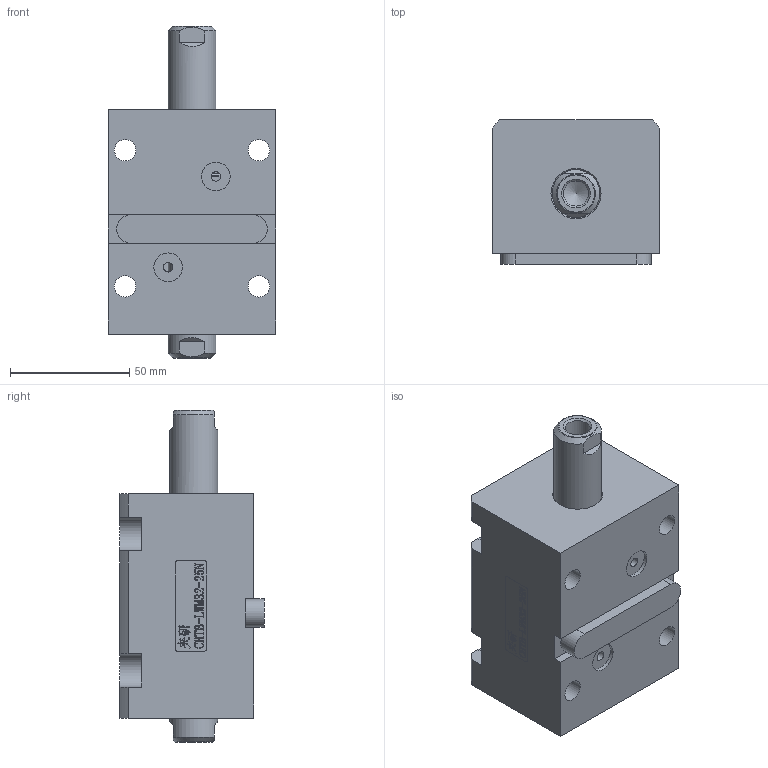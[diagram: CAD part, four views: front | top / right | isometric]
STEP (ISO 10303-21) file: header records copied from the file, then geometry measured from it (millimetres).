
FILE_DESCRIPTION(/* description */ (''),/* implementation_level */ '2;1');
FILE_NAME(/* name */ 'CHTB-LWM32-25N.stp',/* time_stamp */ '2022-04-29T16:31:01+08:00',/* author */ (''),/* organization */ (''),/* preprocessor_version */ 'ST-DEVELOPER v16.7',/* originating_system */ 'SIEMENS PLM Software NX 12.0',/* authorisation */ '');
FILE_SCHEMA (('AUTOMOTIVE_DESIGN { 1 0 10303 214 3 1 1 1 }'));
Length unit declared in the file: millimetre
Products named in the file (1): CHTB-LWM32-25N
Bounding box: 70 x 60.5 x 139 mm (x, y, z)
Volume: 346371.6 mm3; surface area: 67894.2 mm2
Topology: 3 solids, 3 shells, 487 faces, 1363 edges, 919 vertices
Faces by surface type: plane 321, extrusion 88, cylinder 44, torus 14, cone 10, bspline 10
Full cylindrical faces by diameter (mm): 3 x2, 4 x2, 9 x4, 10.5 x2, 12 x2, 20 x4, 24.5 x1, 26 x2, 28 x1, 32 x5, 40 x1
Entity records: 23158 total; most frequent: CARTESIAN_POINT 8802, ORIENTED_EDGE 2602, DIRECTION 2002, EDGE_CURVE 1301, VECTOR 1014, LINE 926, VERTEX_POINT 908, EDGE_LOOP 587
